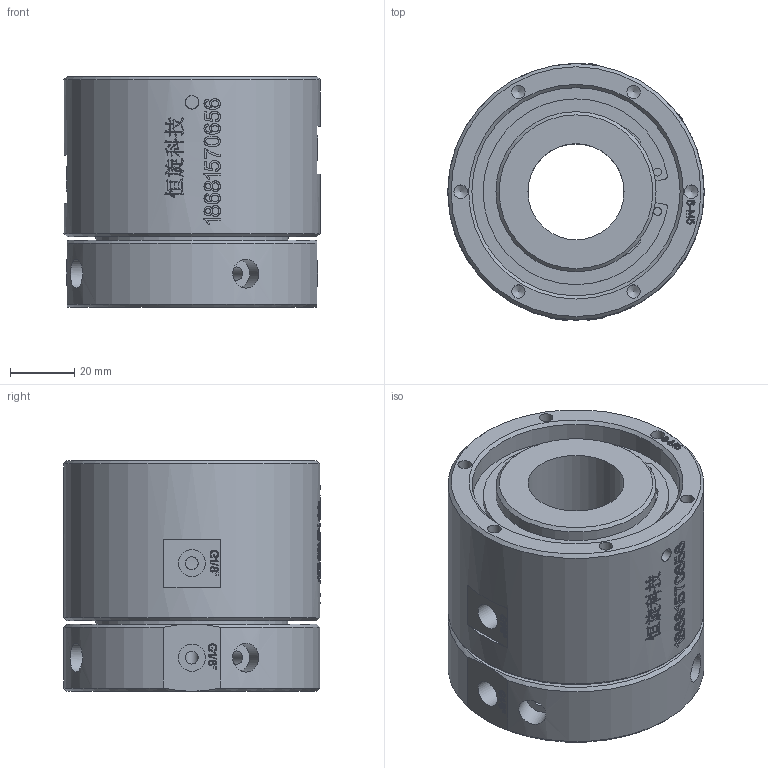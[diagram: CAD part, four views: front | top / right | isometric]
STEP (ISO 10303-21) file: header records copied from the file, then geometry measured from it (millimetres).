
FILE_DESCRIPTION(/* description */ (''),/* implementation_level */ '2;1');
FILE_NAME(/* name */ 'HQ0201D30-3D模型.stp',/* time_stamp */ '2025-08-04T16:59:29+08:00',/* author */ (''),/* organization */ (''),/* preprocessor_version */ 'ST-DEVELOPER v16.7',/* originating_system */ 'SIEMENS PLM Software NX 12.0',/* authorisation */ '');
FILE_SCHEMA (('AUTOMOTIVE_DESIGN { 1 0 10303 214 3 1 1 1 }'));
Length unit declared in the file: millimetre
Products named in the file (1): AdmiA0707E3Egovz
Bounding box: 80 x 80.12 x 72.4 mm (x, y, z)
Volume: 288976 mm3; surface area: 46667.5 mm2
Topology: 1 solids, 1 shells, 1300 faces, 3550 edges, 2369 vertices
Faces by surface type: extrusion 682, plane 465, cylinder 69, bspline 66, cone 18
Full cylindrical faces by diameter (mm): 2.5 x2, 4 x6, 4.1 x2, 4.2 x14, 6.8 x4, 8.5 x4, 9 x4, 30 x1, 47 x1, 50 x1, 60 x1, 65 x1, 80 x1
Entity records: 50239 total; most frequent: CARTESIAN_POINT 22852, ORIENTED_EDGE 6908, EDGE_CURVE 3454, B_SPLINE_CURVE_WITH_KNOTS 3331, DIRECTION 2882, VERTEX_POINT 2341, EDGE_LOOP 1485, ADVANCED_FACE 1300
